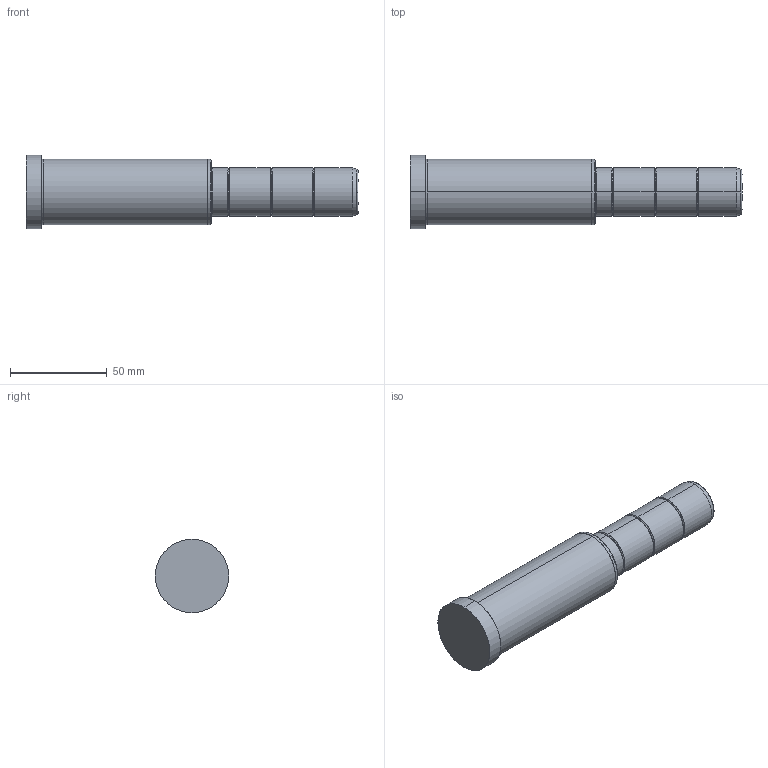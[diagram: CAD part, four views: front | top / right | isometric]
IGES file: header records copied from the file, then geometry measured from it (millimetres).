
Start section: SolidWorks IGES file using analytic representation for surfaces
Global section: file name: C:\Users\Dell\Desktop\deltakont\kontrol edilecekler\D02\Ø25\D02_25x96x76.IGS; native system: SolidWorks 2010; preprocessor: SolidWorks 2010; author: Dell; date: 111225.234636; units: millimetre
Bounding box: 172 x 38 x 38 mm (x, y, z)
Surface area: 18588.8 mm2 (no closed solid volume)
Topology: 0 solids, 0 shells, 42 faces, 752 edges, 752 vertices
Faces by surface type: bspline 22, revolution 20
